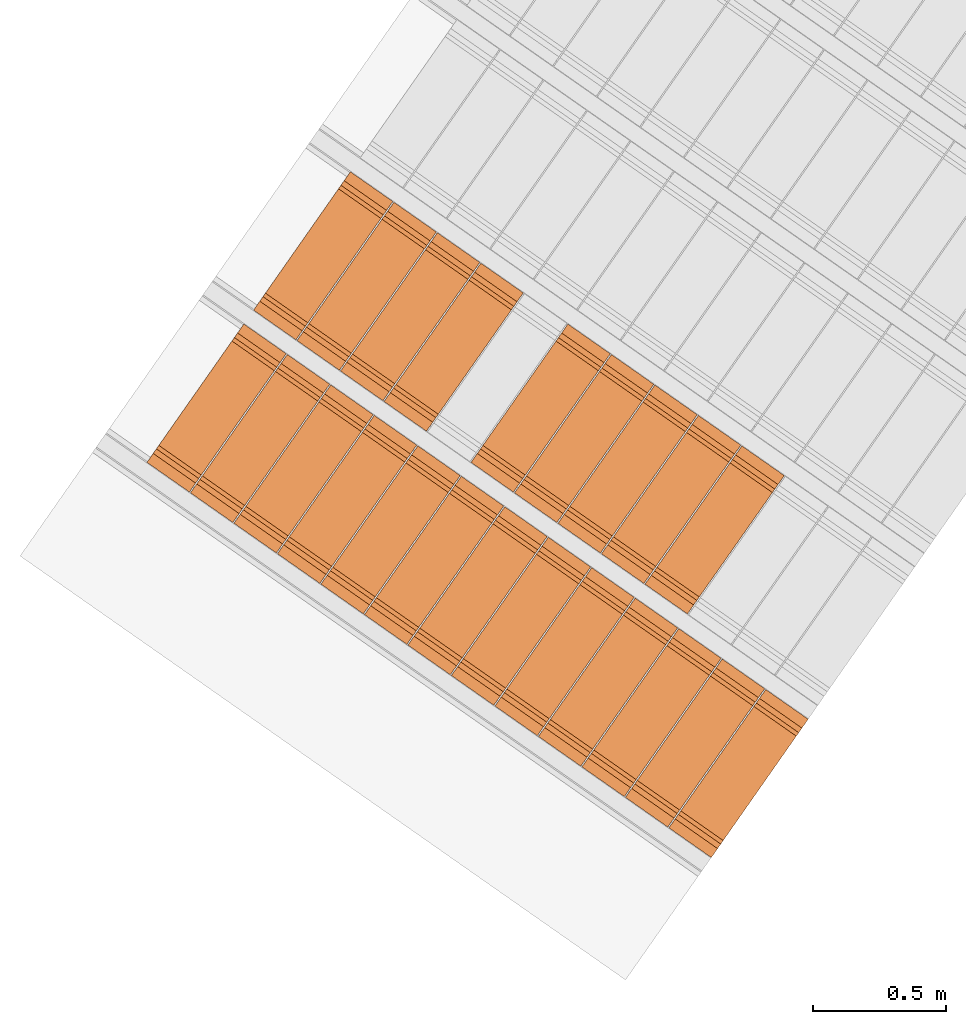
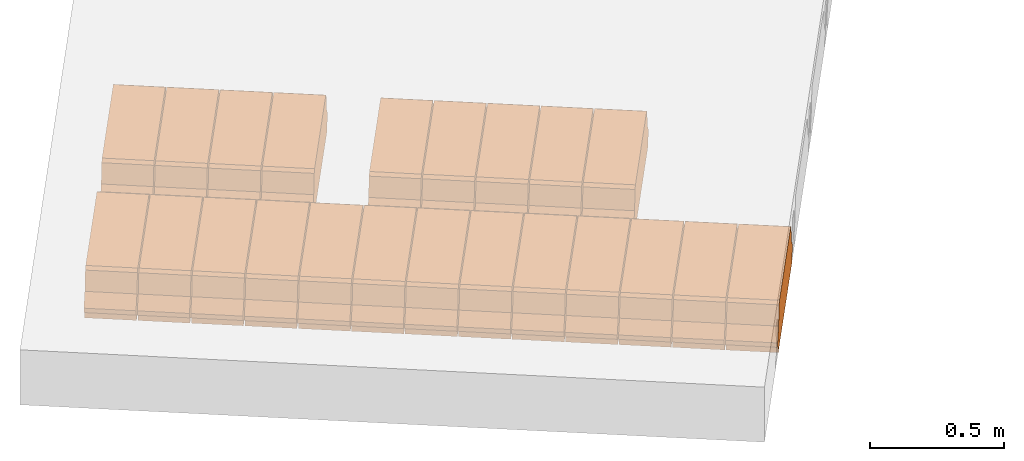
# One storey, part 2 of 8: 22 proxies.
"""IFC2X3 building model written with IfcOpenShell, lengths in metres."""

from ifc_helpers import new_model, entity, si_unit, converted_unit, derived_unit, direction, frame, origin, place, context, subcontext, project, spatial, polyline, outline, extrude, type_object, element, save


model = new_model("IFC2X3")

# Units and contexts
model_context = context("Model", 3, precision=1e-05, world=origin(), true_north=direction((6.123031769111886e-17, 1.0)))
body_context = subcontext(model_context, "Body", "Model", "MODEL_VIEW")
ifc_project = project(units=[si_unit("LENGTHUNIT", "METRE"), si_unit("AREAUNIT", "SQUARE_METRE"), si_unit("VOLUMEUNIT", "CUBIC_METRE"), converted_unit("PLANEANGLEUNIT", "DEGREE", entity("IfcPlaneAngleMeasure", 0.017453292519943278), si_unit("PLANEANGLEUNIT", "RADIAN"), dimensions=[0, 0, 0, 0, 0, 0, 0]), si_unit("MASSUNIT", "GRAM", prefix="KILO"), derived_unit("MASSDENSITYUNIT", [(si_unit("MASSUNIT", "GRAM", prefix="KILO"), 1), (si_unit("LENGTHUNIT", "METRE"), -3)]), derived_unit("IONCONCENTRATIONUNIT", [(si_unit("MASSUNIT", "GRAM", prefix="KILO"), 1), (si_unit("LENGTHUNIT", "METRE"), -3)]), derived_unit("MOMENTOFINERTIAUNIT", [(si_unit("LENGTHUNIT", "METRE"), 4)]), si_unit("TIMEUNIT", "SECOND"), si_unit("FREQUENCYUNIT", "HERTZ"), si_unit("THERMODYNAMICTEMPERATUREUNIT", "DEGREE_CELSIUS"), derived_unit("THERMALTRANSMITTANCEUNIT", [(si_unit("MASSUNIT", "GRAM", prefix="KILO"), 1), (si_unit("THERMODYNAMICTEMPERATUREUNIT", "KELVIN"), -1), (si_unit("TIMEUNIT", "SECOND"), -3)]), derived_unit("THERMALCONDUCTANCEUNIT", [(si_unit("MASSUNIT", "GRAM", prefix="KILO"), 1), (si_unit("THERMODYNAMICTEMPERATUREUNIT", "KELVIN"), -1), (si_unit("TIMEUNIT", "SECOND"), -3), (si_unit("LENGTHUNIT", "METRE"), 1)]), derived_unit("VOLUMETRICFLOWRATEUNIT", [(si_unit("LENGTHUNIT", "METRE", prefix="DECI"), 3), (si_unit("TIMEUNIT", "SECOND"), -1)]), derived_unit("MASSFLOWRATEUNIT", [(si_unit("MASSUNIT", "GRAM", prefix="KILO"), 1), (si_unit("TIMEUNIT", "SECOND"), -1)]), derived_unit("ROTATIONALFREQUENCYUNIT", [(si_unit("TIMEUNIT", "SECOND"), -1)]), si_unit("ELECTRICCURRENTUNIT", "AMPERE"), si_unit("ELECTRICVOLTAGEUNIT", "VOLT"), si_unit("POWERUNIT", "WATT"), si_unit("FORCEUNIT", "NEWTON", prefix="KILO"), si_unit("ILLUMINANCEUNIT", "LUX"), si_unit("LUMINOUSFLUXUNIT", "LUMEN"), si_unit("LUMINOUSINTENSITYUNIT", "CANDELA"), si_unit("ENERGYUNIT", "JOULE"), derived_unit("USERDEFINED", [(si_unit("MASSUNIT", "GRAM", prefix="KILO"), -1), (si_unit("LENGTHUNIT", "METRE"), -2), (si_unit("TIMEUNIT", "SECOND"), 3), (si_unit("LUMINOUSFLUXUNIT", "LUMEN"), 1)]), derived_unit("USERDEFINED", [(si_unit("MASSUNIT", "GRAM", prefix="KILO"), 1), (si_unit("TIMEUNIT", "SECOND"), -3), (si_unit("LENGTHUNIT", "METRE"), 3), (si_unit("ELECTRICCURRENTUNIT", "AMPERE"), -2)]), derived_unit("SOUNDPOWERUNIT", [(si_unit("MASSUNIT", "GRAM", prefix="KILO"), 1), (si_unit("TIMEUNIT", "SECOND"), -3), (si_unit("LENGTHUNIT", "METRE"), 2)]), derived_unit("SOUNDPRESSUREUNIT", [(si_unit("MASSUNIT", "GRAM", prefix="KILO"), 1), (si_unit("LENGTHUNIT", "METRE"), -1), (si_unit("TIMEUNIT", "SECOND"), -2)]), derived_unit("LINEARVELOCITYUNIT", [(si_unit("LENGTHUNIT", "METRE"), 1), (si_unit("TIMEUNIT", "SECOND"), -1)]), si_unit("PRESSUREUNIT", "PASCAL"), derived_unit("USERDEFINED", [(si_unit("MASSUNIT", "GRAM", prefix="KILO"), 1), (si_unit("LENGTHUNIT", "METRE"), -2), (si_unit("TIMEUNIT", "SECOND"), -2)]), derived_unit("LINEARFORCEUNIT", [(si_unit("MASSUNIT", "GRAM", prefix="KILO"), 1), (si_unit("TIMEUNIT", "SECOND"), -2)]), derived_unit("PLANARFORCEUNIT", [(si_unit("MASSUNIT", "GRAM", prefix="KILO"), 1), (si_unit("LENGTHUNIT", "METRE"), -1), (si_unit("TIMEUNIT", "SECOND"), -2)]), derived_unit("SPECIFICHEATCAPACITYUNIT", [(si_unit("THERMODYNAMICTEMPERATUREUNIT", "KELVIN"), -1), (si_unit("LENGTHUNIT", "METRE"), 2), (si_unit("TIMEUNIT", "SECOND"), -2)]), derived_unit("HEATFLUXDENSITYUNIT", [(si_unit("MASSUNIT", "GRAM", prefix="KILO"), 1), (si_unit("TIMEUNIT", "SECOND"), -3)]), derived_unit("HEATINGVALUEUNIT", [(si_unit("LENGTHUNIT", "METRE"), 2), (si_unit("TIMEUNIT", "SECOND"), -2)]), derived_unit("VAPORPERMEABILITYUNIT", [(si_unit("LENGTHUNIT", "METRE"), -1), (si_unit("TIMEUNIT", "SECOND"), 1)]), derived_unit("DYNAMICVISCOSITYUNIT", [(si_unit("MASSUNIT", "GRAM", prefix="KILO"), 1), (si_unit("TIMEUNIT", "SECOND"), -1), (si_unit("LENGTHUNIT", "METRE"), -1)]), derived_unit("THERMALEXPANSIONCOEFFICIENTUNIT", [(si_unit("THERMODYNAMICTEMPERATUREUNIT", "KELVIN"), -1)]), derived_unit("MODULUSOFELASTICITYUNIT", [(si_unit("MASSUNIT", "GRAM", prefix="KILO"), 1), (si_unit("LENGTHUNIT", "METRE"), -1), (si_unit("TIMEUNIT", "SECOND"), -2)]), derived_unit("ISOTHERMALMOISTURECAPACITYUNIT", [(si_unit("MASSUNIT", "GRAM", prefix="KILO"), -1), (si_unit("LENGTHUNIT", "METRE"), 3)]), derived_unit("MOISTUREDIFFUSIVITYUNIT", [(si_unit("TIMEUNIT", "SECOND"), -1), (si_unit("LENGTHUNIT", "METRE"), 2)]), derived_unit("MASSPERLENGTHUNIT", [(si_unit("MASSUNIT", "GRAM", prefix="KILO"), 1), (si_unit("LENGTHUNIT", "METRE"), -1)]), derived_unit("THERMALRESISTANCEUNIT", [(si_unit("MASSUNIT", "GRAM", prefix="KILO"), -1), (si_unit("TIMEUNIT", "SECOND"), 3), (si_unit("THERMODYNAMICTEMPERATUREUNIT", "KELVIN"), 1)]), derived_unit("ACCELERATIONUNIT", [(si_unit("LENGTHUNIT", "METRE"), 1), (si_unit("TIMEUNIT", "SECOND"), -2)]), derived_unit("ANGULARVELOCITYUNIT", [(si_unit("TIMEUNIT", "SECOND"), -1), (si_unit("PLANEANGLEUNIT", "RADIAN"), 1)]), derived_unit("LINEARSTIFFNESSUNIT", [(si_unit("MASSUNIT", "GRAM", prefix="KILO"), 1), (si_unit("TIMEUNIT", "SECOND"), -2)]), derived_unit("WARPINGCONSTANTUNIT", [(si_unit("LENGTHUNIT", "METRE"), 6)]), derived_unit("LINEARMOMENTUNIT", [(si_unit("MASSUNIT", "GRAM", prefix="KILO"), 1), (si_unit("LENGTHUNIT", "METRE"), 1), (si_unit("TIMEUNIT", "SECOND"), -2)]), derived_unit("TORQUEUNIT", [(si_unit("MASSUNIT", "GRAM", prefix="KILO"), 1), (si_unit("LENGTHUNIT", "METRE"), 2), (si_unit("TIMEUNIT", "SECOND"), -2)])], contexts=[model_context])

# Site, building, storey
site_placement = place(None, origin())
site = spatial("IfcSite", under=ifc_project, at=site_placement, Name="Default", CompositionType="ELEMENT")
building_placement = place(site_placement, origin())
building = spatial("IfcBuilding", under=site, at=building_placement, CompositionType="ELEMENT")
storey_placement = place(building_placement, frame((0.0, 0.0, 93.64)))
storey = spatial("IfcBuildingStorey", under=building, at=storey_placement, Name="Depósito_", CompositionType="ELEMENT", Elevation=93.64)

# Proxies
building_element_proxy_type_1 = type_object("IfcBuildingElementProxyType", Name="Bovedilla 1-1 (Paño 1)", PredefinedType="USERDEFINED")
proxy_1_placement = place(storey_placement, origin())
element("IfcBuildingElementProxy", 1, at=proxy_1_placement, inside=storey, type_object=building_element_proxy_type_1, Name="Bovedilla 1-1 (Paño 1)", ObjectType="FORM", context=body_context, shape_type="SweptSolid", body=[
    extrude(outline(polyline([(0.05816607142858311, -0.29499999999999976), (0.08997232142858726, -0.29499999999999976), (0.08997232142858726, 0.2950000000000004), (0.05816607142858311, 0.2950000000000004), (0.049972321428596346, 0.3180000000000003), (0.029972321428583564, 0.3180000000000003), (-0.018027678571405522, 0.2770000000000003), (-0.10002767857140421, 0.25600000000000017), (-0.11002767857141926, 0.24000000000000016), (-0.11002767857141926, -0.2399999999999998), (-0.10002767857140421, -0.2559999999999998), (-0.018027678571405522, -0.2769999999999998), (0.029972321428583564, -0.31799999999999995), (0.049972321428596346, -0.31799999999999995), (0.05816607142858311, -0.29499999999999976)])), frame((1.2637437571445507, 1.6070625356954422, 2.1381660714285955), z_axis=(0.8191520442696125, -0.5735764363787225, 0.0), x_axis=(0.0, 0.0, -1.0)), (0.0, 0.0, 1.0), 0.19500000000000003),
])
building_element_proxy_type_2 = type_object("IfcBuildingElementProxyType", Name="Bovedilla 1-2 (Paño 1)", PredefinedType="USERDEFINED")
proxy_2_placement = place(storey_placement, origin())
element("IfcBuildingElementProxy", 2, at=proxy_2_placement, inside=storey, type_object=building_element_proxy_type_2, Name="Bovedilla 1-2 (Paño 1)", ObjectType="FORM", context=body_context, shape_type="SweptSolid", body=[
    extrude(outline(polyline([(0.05816607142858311, -0.295), (0.08997232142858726, -0.295), (0.08997232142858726, 0.295), (0.05816607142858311, 0.295), (0.049972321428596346, 0.318), (0.029972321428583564, 0.318), (-0.018027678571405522, 0.27700000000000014), (-0.10002767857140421, 0.256), (-0.11002767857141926, 0.24), (-0.11002767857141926, -0.24000000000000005), (-0.10002767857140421, -0.25600000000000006), (-0.018027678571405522, -0.27700000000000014), (0.029972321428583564, -0.31799999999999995), (0.049972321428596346, -0.31799999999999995), (0.05816607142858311, -0.295)])), frame((1.0999133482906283, 1.7217778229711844, 2.1381660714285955), z_axis=(0.8191520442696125, -0.5735764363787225, 0.0), x_axis=(0.0, 0.0, -1.0)), (0.0, 0.0, 1.0), 0.19500000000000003),
])
building_element_proxy_type_3 = type_object("IfcBuildingElementProxyType", Name="Bovedilla 1-3 (Paño 1)", PredefinedType="USERDEFINED")
proxy_3_placement = place(storey_placement, origin())
element("IfcBuildingElementProxy", 3, at=proxy_3_placement, inside=storey, type_object=building_element_proxy_type_3, Name="Bovedilla 1-3 (Paño 1)", ObjectType="FORM", context=body_context, shape_type="SweptSolid", body=[
    extrude(outline(polyline([(0.05816607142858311, -0.29499999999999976), (0.08997232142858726, -0.29499999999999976), (0.08997232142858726, 0.2950000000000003), (0.05816607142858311, 0.2950000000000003), (0.049972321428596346, 0.3180000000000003), (0.029972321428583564, 0.3180000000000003), (-0.018027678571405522, 0.27700000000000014), (-0.10002767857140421, 0.25600000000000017), (-0.11002767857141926, 0.24000000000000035), (-0.11002767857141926, -0.2399999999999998), (-0.10002767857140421, -0.2559999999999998), (-0.018027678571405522, -0.2769999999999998), (0.029972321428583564, -0.31799999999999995), (0.049972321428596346, -0.31799999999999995), (0.05816607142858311, -0.29499999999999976)])), frame((0.9360829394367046, 1.8364931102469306, 2.1381660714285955), z_axis=(0.8191520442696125, -0.5735764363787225, 0.0), x_axis=(0.0, 0.0, -1.0)), (0.0, 0.0, 1.0), 0.19500000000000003),
])
building_element_proxy_type_4 = type_object("IfcBuildingElementProxyType", Name="Bovedilla 1-4 (Paño 1)", PredefinedType="USERDEFINED")
proxy_4_placement = place(storey_placement, origin())
element("IfcBuildingElementProxy", 4, at=proxy_4_placement, inside=storey, type_object=building_element_proxy_type_4, Name="Bovedilla 1-4 (Paño 1)", ObjectType="FORM", context=body_context, shape_type="SweptSolid", body=[
    extrude(outline(polyline([(0.05816607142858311, -0.29499999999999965), (0.08997232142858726, -0.29499999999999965), (0.08997232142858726, 0.2950000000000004), (0.05816607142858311, 0.2950000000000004), (0.049972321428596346, 0.31800000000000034), (0.029972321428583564, 0.31800000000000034), (-0.018027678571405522, 0.27700000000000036), (-0.10002767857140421, 0.2560000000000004), (-0.11002767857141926, 0.24000000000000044), (-0.11002767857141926, -0.23999999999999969), (-0.10002767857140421, -0.25599999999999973), (-0.018027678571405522, -0.27699999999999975), (0.029972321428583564, -0.31799999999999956), (0.049972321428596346, -0.31799999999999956), (0.05816607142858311, -0.29499999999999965)])), frame((0.7722525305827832, 1.9512083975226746, 2.1381660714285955), z_axis=(0.8191520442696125, -0.5735764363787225, 0.0), x_axis=(0.0, 0.0, -1.0)), (0.0, 0.0, 1.0), 0.19500000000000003),
])
building_element_proxy_type_5 = type_object("IfcBuildingElementProxyType", Name="Bovedilla 1-5 (Paño 1)", PredefinedType="USERDEFINED")
proxy_5_placement = place(storey_placement, origin())
element("IfcBuildingElementProxy", 5, at=proxy_5_placement, inside=storey, type_object=building_element_proxy_type_5, Name="Bovedilla 1-5 (Paño 1)", ObjectType="FORM", context=body_context, shape_type="SweptSolid", body=[
    extrude(outline(polyline([(0.05816607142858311, -0.29499999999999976), (0.08997232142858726, -0.29499999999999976), (0.08997232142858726, 0.2950000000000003), (0.05816607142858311, 0.2950000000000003), (0.049972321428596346, 0.31800000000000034), (0.029972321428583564, 0.31800000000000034), (-0.018027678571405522, 0.27700000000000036), (-0.10002767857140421, 0.2560000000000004), (-0.11002767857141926, 0.24000000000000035), (-0.11002767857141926, -0.2399999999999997), (-0.10002767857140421, -0.25599999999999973), (-0.018027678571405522, -0.27699999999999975), (0.029972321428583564, -0.31799999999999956), (0.049972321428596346, -0.31799999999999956), (0.05816607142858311, -0.29499999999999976)])), frame((0.6084221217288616, 2.065923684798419, 2.1381660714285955), z_axis=(0.8191520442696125, -0.5735764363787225, 0.0), x_axis=(0.0, 0.0, -1.0)), (0.0, 0.0, 1.0), 0.19500000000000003),
])
building_element_proxy_type_6 = type_object("IfcBuildingElementProxyType", Name="Bovedilla 1-6 (Paño 1)", PredefinedType="USERDEFINED")
proxy_6_placement = place(storey_placement, origin())
element("IfcBuildingElementProxy", 6, at=proxy_6_placement, inside=storey, type_object=building_element_proxy_type_6, Name="Bovedilla 1-6 (Paño 1)", ObjectType="FORM", context=body_context, shape_type="SweptSolid", body=[
    extrude(outline(polyline([(0.05816607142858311, -0.29499999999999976), (0.08997232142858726, -0.29499999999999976), (0.08997232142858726, 0.2950000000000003), (0.05816607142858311, 0.2950000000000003), (0.049972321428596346, 0.31800000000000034), (0.029972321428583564, 0.31800000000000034), (-0.018027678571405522, 0.27700000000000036), (-0.10002767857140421, 0.2560000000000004), (-0.11002767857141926, 0.24000000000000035), (-0.11002767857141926, -0.2399999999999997), (-0.10002767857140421, -0.2559999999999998), (-0.018027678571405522, -0.27699999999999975), (0.029972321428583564, -0.31799999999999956), (0.049972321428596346, -0.31799999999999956), (0.05816607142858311, -0.29499999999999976)])), frame((0.44459171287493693, 2.1806389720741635, 2.1381660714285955), z_axis=(0.8191520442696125, -0.5735764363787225, 0.0), x_axis=(0.0, 0.0, -1.0)), (0.0, 0.0, 1.0), 0.19500000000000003),
])
building_element_proxy_type_7 = type_object("IfcBuildingElementProxyType", Name="Bovedilla 1-7 (Paño 1)", PredefinedType="USERDEFINED")
proxy_7_placement = place(storey_placement, origin())
element("IfcBuildingElementProxy", 7, at=proxy_7_placement, inside=storey, type_object=building_element_proxy_type_7, Name="Bovedilla 1-7 (Paño 1)", ObjectType="FORM", context=body_context, shape_type="SweptSolid", body=[
    extrude(outline(polyline([(0.05816607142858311, -0.29499999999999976), (0.08997232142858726, -0.29499999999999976), (0.08997232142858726, 0.2950000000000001), (0.05816607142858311, 0.2950000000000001), (0.049972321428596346, 0.3180000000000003), (0.029972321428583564, 0.3180000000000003), (-0.018027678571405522, 0.27700000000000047), (-0.10002767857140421, 0.2560000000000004), (-0.11002767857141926, 0.2400000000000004), (-0.11002767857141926, -0.2399999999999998), (-0.10002767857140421, -0.2559999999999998), (-0.018027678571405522, -0.2769999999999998), (0.029972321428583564, -0.3179999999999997), (0.049972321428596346, -0.3179999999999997), (0.05816607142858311, -0.29499999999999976)])), frame((0.28076130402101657, 2.2953542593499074, 2.1381660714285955), z_axis=(0.8191520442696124, -0.5735764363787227, 0.0), x_axis=(0.0, 0.0, -1.0)), (0.0, 0.0, 1.0), 0.19500000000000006),
])
building_element_proxy_type_8 = type_object("IfcBuildingElementProxyType", Name="Bovedilla 1-8 (Paño 1)", PredefinedType="USERDEFINED")
proxy_8_placement = place(storey_placement, origin())
element("IfcBuildingElementProxy", 8, at=proxy_8_placement, inside=storey, type_object=building_element_proxy_type_8, Name="Bovedilla 1-8 (Paño 1)", ObjectType="FORM", context=body_context, shape_type="SweptSolid", body=[
    extrude(outline(polyline([(0.05816607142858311, -0.29499999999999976), (0.08997232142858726, -0.29499999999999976), (0.08997232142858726, 0.2950000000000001), (0.05816607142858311, 0.2950000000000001), (0.049972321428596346, 0.31800000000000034), (0.029972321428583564, 0.31800000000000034), (-0.018027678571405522, 0.2770000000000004), (-0.10002767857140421, 0.2560000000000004), (-0.11002767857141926, 0.2400000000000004), (-0.11002767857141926, -0.2399999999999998), (-0.10002767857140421, -0.2559999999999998), (-0.018027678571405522, -0.2769999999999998), (0.029972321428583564, -0.3179999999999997), (0.049972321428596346, -0.3179999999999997), (0.05816607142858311, -0.29499999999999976)])), frame((0.1169308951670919, 2.410069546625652, 2.1381660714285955), z_axis=(0.8191520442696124, -0.5735764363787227, 0.0), x_axis=(0.0, 0.0, -1.0)), (0.0, 0.0, 1.0), 0.19500000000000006),
])
building_element_proxy_type_9 = type_object("IfcBuildingElementProxyType", Name="Bovedilla 1-9 (Paño 1)", PredefinedType="USERDEFINED")
proxy_9_placement = place(storey_placement, origin())
element("IfcBuildingElementProxy", 9, at=proxy_9_placement, inside=storey, type_object=building_element_proxy_type_9, Name="Bovedilla 1-9 (Paño 1)", ObjectType="FORM", context=body_context, shape_type="SweptSolid", body=[
    extrude(outline(polyline([(0.05816607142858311, -0.29499999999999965), (0.08997232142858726, -0.29499999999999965), (0.08997232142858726, 0.2950000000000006), (0.05816607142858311, 0.2950000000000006), (0.049972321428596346, 0.3180000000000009), (0.029972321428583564, 0.3180000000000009), (-0.018027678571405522, 0.27700000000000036), (-0.10002767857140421, 0.25600000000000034), (-0.11002767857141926, 0.24000000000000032), (-0.11002767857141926, -0.23999999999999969), (-0.10002767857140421, -0.25599999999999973), (-0.018027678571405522, -0.2769999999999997), (0.029972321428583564, -0.31799999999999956), (0.049972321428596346, -0.31799999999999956), (0.05816607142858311, -0.29499999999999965)])), frame((-0.04689951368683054, 2.5247848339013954, 2.1381660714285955), z_axis=(0.8191520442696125, -0.5735764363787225, 0.0), x_axis=(0.0, 0.0, -1.0)), (0.0, 0.0, 1.0), 0.19500000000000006),
])
building_element_proxy_type_10 = type_object("IfcBuildingElementProxyType", Name="Bovedilla 1-10 (Paño 1)", PredefinedType="USERDEFINED")
proxy_10_placement = place(storey_placement, origin())
element("IfcBuildingElementProxy", 10, at=proxy_10_placement, inside=storey, type_object=building_element_proxy_type_10, Name="Bovedilla 1-10 (Paño 1)", ObjectType="FORM", context=body_context, shape_type="SweptSolid", body=[
    extrude(outline(polyline([(0.05816607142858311, -0.29499999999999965), (0.08997232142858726, -0.29499999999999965), (0.08997232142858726, 0.2950000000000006), (0.05816607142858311, 0.2950000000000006), (0.049972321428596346, 0.3180000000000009), (0.029972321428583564, 0.3180000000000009), (-0.018027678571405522, 0.27700000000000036), (-0.10002767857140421, 0.25600000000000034), (-0.11002767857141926, 0.24000000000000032), (-0.11002767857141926, -0.2399999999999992), (-0.10002767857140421, -0.25599999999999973), (-0.018027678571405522, -0.27699999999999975), (0.029972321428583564, -0.31799999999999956), (0.049972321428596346, -0.31799999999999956), (0.05816607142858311, -0.29499999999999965)])), frame((-0.21072992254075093, 2.63950012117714, 2.1381660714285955), z_axis=(0.8191520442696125, -0.5735764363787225, 0.0), x_axis=(0.0, 0.0, -1.0)), (0.0, 0.0, 1.0), 0.19500000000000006),
])
building_element_proxy_type_11 = type_object("IfcBuildingElementProxyType", Name="Bovedilla 1-11 (Paño 1)", PredefinedType="USERDEFINED")
proxy_11_placement = place(storey_placement, origin())
element("IfcBuildingElementProxy", 11, at=proxy_11_placement, inside=storey, type_object=building_element_proxy_type_11, Name="Bovedilla 1-11 (Paño 1)", ObjectType="FORM", context=body_context, shape_type="SweptSolid", body=[
    extrude(outline(polyline([(0.05816607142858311, -0.29499999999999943), (0.08997232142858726, -0.29499999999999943), (0.08997232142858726, 0.2950000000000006), (0.05816607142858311, 0.2950000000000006), (0.049972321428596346, 0.3180000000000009), (0.029972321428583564, 0.3180000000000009), (-0.018027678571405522, 0.27700000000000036), (-0.10002767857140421, 0.25600000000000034), (-0.11002767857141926, 0.24000000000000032), (-0.11002767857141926, -0.23999999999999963), (-0.10002767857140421, -0.2559999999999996), (-0.018027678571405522, -0.27699999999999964), (0.029972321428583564, -0.31799999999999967), (0.049972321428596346, -0.31799999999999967), (0.05816607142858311, -0.29499999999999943)])), frame((-0.37456033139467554, 2.7542154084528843, 2.1381660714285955), z_axis=(0.8191520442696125, -0.5735764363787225, 0.0), x_axis=(0.0, 0.0, -1.0)), (0.0, 0.0, 1.0), 0.19500000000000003),
])
building_element_proxy_type_12 = type_object("IfcBuildingElementProxyType", Name="Bovedilla 1-12 (Paño 1)", PredefinedType="USERDEFINED")
proxy_12_placement = place(storey_placement, origin())
element("IfcBuildingElementProxy", 12, at=proxy_12_placement, inside=storey, type_object=building_element_proxy_type_12, Name="Bovedilla 1-12 (Paño 1)", ObjectType="FORM", context=body_context, shape_type="SweptSolid", body=[
    extrude(outline(polyline([(0.05816607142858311, -0.2949999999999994), (0.08997232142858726, -0.2949999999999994), (0.08997232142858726, 0.2950000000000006), (0.05816607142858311, 0.2950000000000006), (0.049972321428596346, 0.3180000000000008), (0.029972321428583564, 0.3180000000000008), (-0.018027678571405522, 0.27700000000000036), (-0.10002767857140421, 0.25600000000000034), (-0.11002767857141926, 0.24000000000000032), (-0.11002767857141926, -0.23999999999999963), (-0.10002767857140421, -0.2559999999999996), (-0.018027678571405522, -0.27699999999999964), (0.029972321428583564, -0.3179999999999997), (0.049972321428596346, -0.3179999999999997), (0.05816607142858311, -0.2949999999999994)])), frame((-0.5383907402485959, 2.8689306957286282, 2.1381660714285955), z_axis=(0.8191520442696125, -0.5735764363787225, 0.0), x_axis=(0.0, 0.0, -1.0)), (0.0, 0.0, 1.0), 0.19500000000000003),
])
building_element_proxy_type_13 = type_object("IfcBuildingElementProxyType", Name="Bovedilla 1-13 (Paño 1)", PredefinedType="USERDEFINED")
proxy_13_placement = place(storey_placement, origin())
element("IfcBuildingElementProxy", 13, at=proxy_13_placement, inside=storey, type_object=building_element_proxy_type_13, Name="Bovedilla 1-13 (Paño 1)", ObjectType="FORM", context=body_context, shape_type="SweptSolid", body=[
    extrude(outline(polyline([(0.05816607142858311, -0.2950000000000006), (0.08997232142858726, -0.2950000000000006), (0.08997232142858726, 0.29499999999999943), (0.05816607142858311, 0.29499999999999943), (0.049972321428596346, 0.31799999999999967), (0.029972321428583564, 0.31799999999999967), (-0.018027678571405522, 0.27699999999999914), (-0.10002767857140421, 0.2559999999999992), (-0.11002767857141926, 0.2399999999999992), (-0.11002767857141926, -0.24000000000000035), (-0.10002767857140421, -0.2560000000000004), (-0.018027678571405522, -0.27700000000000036), (0.029972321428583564, -0.3180000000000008), (0.049972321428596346, -0.3180000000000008), (0.05816607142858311, -0.2950000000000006)])), frame((-0.7022211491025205, 2.983645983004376, 2.1381660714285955), z_axis=(0.8191520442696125, -0.5735764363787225, 0.0), x_axis=(0.0, 0.0, -1.0)), (0.0, 0.0, 1.0), 0.19500000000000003),
])
building_element_proxy_type_14 = type_object("IfcBuildingElementProxyType", Name="Bovedilla 2-4 (Paño 1)", PredefinedType="USERDEFINED")
proxy_14_placement = place(storey_placement, origin())
element("IfcBuildingElementProxy", 14, at=proxy_14_placement, inside=storey, type_object=building_element_proxy_type_14, Name="Bovedilla 2-4 (Paño 1)", ObjectType="FORM", context=body_context, shape_type="SweptSolid", body=[
    extrude(outline(polyline([(0.05816607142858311, -0.2950000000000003), (0.08997232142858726, -0.2950000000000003), (0.08997232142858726, 0.2949999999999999), (0.05816607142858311, 0.2949999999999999), (0.049972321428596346, 0.3179999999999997), (0.029972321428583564, 0.3179999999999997), (-0.018027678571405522, 0.27699999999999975), (-0.10002767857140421, 0.2559999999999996), (-0.11002767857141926, 0.23999999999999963), (-0.11002767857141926, -0.24000000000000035), (-0.10002767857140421, -0.2560000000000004), (-0.018027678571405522, -0.27700000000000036), (0.029972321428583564, -0.31800000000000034), (0.049972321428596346, -0.31800000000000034), (0.05816607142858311, -0.2950000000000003)])), frame((1.1737560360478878, 2.5246148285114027, 2.1381660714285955), z_axis=(0.8191520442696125, -0.5735764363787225, 0.0), x_axis=(0.0, 0.0, -1.0)), (0.0, 0.0, 1.0), 0.19500000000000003),
])
building_element_proxy_type_15 = type_object("IfcBuildingElementProxyType", Name="Bovedilla 2-5 (Paño 1)", PredefinedType="USERDEFINED")
proxy_15_placement = place(storey_placement, origin())
element("IfcBuildingElementProxy", 15, at=proxy_15_placement, inside=storey, type_object=building_element_proxy_type_15, Name="Bovedilla 2-5 (Paño 1)", ObjectType="FORM", context=body_context, shape_type="SweptSolid", body=[
    extrude(outline(polyline([(0.05816607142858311, -0.2950000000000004), (0.08997232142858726, -0.2950000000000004), (0.08997232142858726, 0.2949999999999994), (0.05816607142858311, 0.2949999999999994), (0.049972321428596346, 0.3179999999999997), (0.029972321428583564, 0.3179999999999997), (-0.018027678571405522, 0.27699999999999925), (-0.10002767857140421, 0.2559999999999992), (-0.11002767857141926, 0.23999999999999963), (-0.11002767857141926, -0.24000000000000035), (-0.10002767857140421, -0.2560000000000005), (-0.018027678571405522, -0.27700000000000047), (0.029972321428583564, -0.31800000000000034), (0.049972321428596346, -0.31800000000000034), (0.05816607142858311, -0.2950000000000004)])), frame((1.0099256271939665, 2.6393301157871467, 2.1381660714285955), z_axis=(0.8191520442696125, -0.5735764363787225, 0.0), x_axis=(0.0, 0.0, -1.0)), (0.0, 0.0, 1.0), 0.19500000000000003),
])
building_element_proxy_type_16 = type_object("IfcBuildingElementProxyType", Name="Bovedilla 2-6 (Paño 1)", PredefinedType="USERDEFINED")
proxy_16_placement = place(storey_placement, origin())
element("IfcBuildingElementProxy", 16, at=proxy_16_placement, inside=storey, type_object=building_element_proxy_type_16, Name="Bovedilla 2-6 (Paño 1)", ObjectType="FORM", context=body_context, shape_type="SweptSolid", body=[
    extrude(outline(polyline([(0.05816607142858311, -0.2950000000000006), (0.08997232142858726, -0.2950000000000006), (0.08997232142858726, 0.2949999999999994), (0.05816607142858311, 0.2949999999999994), (0.049972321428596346, 0.31799999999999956), (0.029972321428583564, 0.31799999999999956), (-0.018027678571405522, 0.27699999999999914), (-0.10002767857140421, 0.2559999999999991), (-0.11002767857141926, 0.2399999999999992), (-0.11002767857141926, -0.24000000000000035), (-0.10002767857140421, -0.2560000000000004), (-0.018027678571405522, -0.27700000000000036), (0.029972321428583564, -0.31800000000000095), (0.049972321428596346, -0.31800000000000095), (0.05816607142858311, -0.2950000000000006)])), frame((0.8460952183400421, 2.754045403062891, 2.1381660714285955), z_axis=(0.8191520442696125, -0.5735764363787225, 0.0), x_axis=(0.0, 0.0, -1.0)), (0.0, 0.0, 1.0), 0.19500000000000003),
])
building_element_proxy_type_17 = type_object("IfcBuildingElementProxyType", Name="Bovedilla 2-7 (Paño 1)", PredefinedType="USERDEFINED")
proxy_17_placement = place(storey_placement, origin())
element("IfcBuildingElementProxy", 17, at=proxy_17_placement, inside=storey, type_object=building_element_proxy_type_17, Name="Bovedilla 2-7 (Paño 1)", ObjectType="FORM", context=body_context, shape_type="SweptSolid", body=[
    extrude(outline(polyline([(0.05816607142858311, -0.2950000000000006), (0.08997232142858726, -0.2950000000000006), (0.08997232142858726, 0.2949999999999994), (0.05816607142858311, 0.2949999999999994), (0.049972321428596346, 0.3179999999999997), (0.029972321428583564, 0.3179999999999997), (-0.018027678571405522, 0.27699999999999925), (-0.10002767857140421, 0.2559999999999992), (-0.11002767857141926, 0.23999999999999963), (-0.11002767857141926, -0.24000000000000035), (-0.10002767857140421, -0.2560000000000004), (-0.018027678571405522, -0.27700000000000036), (0.029972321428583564, -0.3180000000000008), (0.049972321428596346, -0.3180000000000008), (0.05816607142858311, -0.2950000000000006)])), frame((0.6822648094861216, 2.8687606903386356, 2.1381660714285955), z_axis=(0.8191520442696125, -0.5735764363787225, 0.0), x_axis=(0.0, 0.0, -1.0)), (0.0, 0.0, 1.0), 0.19500000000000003),
])
building_element_proxy_type_18 = type_object("IfcBuildingElementProxyType", Name="Bovedilla 2-8 (Paño 1)", PredefinedType="USERDEFINED")
proxy_18_placement = place(storey_placement, origin())
element("IfcBuildingElementProxy", 18, at=proxy_18_placement, inside=storey, type_object=building_element_proxy_type_18, Name="Bovedilla 2-8 (Paño 1)", ObjectType="FORM", context=body_context, shape_type="SweptSolid", body=[
    extrude(outline(polyline([(0.05816607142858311, -0.2950000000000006), (0.08997232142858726, -0.2950000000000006), (0.08997232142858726, 0.2949999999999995), (0.05816607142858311, 0.2949999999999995), (0.049972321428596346, 0.3179999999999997), (0.029972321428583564, 0.3179999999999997), (-0.018027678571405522, 0.27699999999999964), (-0.10002767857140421, 0.2559999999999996), (-0.11002767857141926, 0.23999999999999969), (-0.11002767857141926, -0.24000000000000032), (-0.10002767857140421, -0.25600000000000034), (-0.018027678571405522, -0.27700000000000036), (0.029972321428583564, -0.3180000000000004), (0.049972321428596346, -0.3180000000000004), (0.05816607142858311, -0.2950000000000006)])), frame((0.5184344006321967, 2.9834759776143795, 2.1381660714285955), z_axis=(0.8191520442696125, -0.5735764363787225, 0.0), x_axis=(0.0, 0.0, -1.0)), (0.0, 0.0, 1.0), 0.19500000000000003),
])
building_element_proxy_type_19 = type_object("IfcBuildingElementProxyType", Name="Bovedilla 2-10 (Paño 1)", PredefinedType="USERDEFINED")
proxy_19_placement = place(storey_placement, origin())
element("IfcBuildingElementProxy", 19, at=proxy_19_placement, inside=storey, type_object=building_element_proxy_type_19, Name="Bovedilla 2-10 (Paño 1)", ObjectType="FORM", context=body_context, shape_type="SweptSolid", body=[
    extrude(outline(polyline([(0.05816607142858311, -0.2950000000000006), (0.08997232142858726, -0.2950000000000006), (0.08997232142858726, 0.2949999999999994), (0.05816607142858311, 0.2949999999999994), (0.049972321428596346, 0.31799999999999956), (0.029972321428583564, 0.31799999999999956), (-0.018027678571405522, 0.27699999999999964), (-0.10002767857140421, 0.2559999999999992), (-0.11002767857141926, 0.23999999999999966), (-0.11002767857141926, -0.24000000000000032), (-0.10002767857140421, -0.25600000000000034), (-0.018027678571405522, -0.27700000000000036), (0.029972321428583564, -0.3180000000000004), (0.049972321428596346, -0.3180000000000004), (0.05816607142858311, -0.2950000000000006)])), frame((0.1907735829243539, 3.212906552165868, 2.1381660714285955), z_axis=(0.8191520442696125, -0.5735764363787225, 0.0), x_axis=(0.0, 0.0, -1.0)), (0.0, 0.0, 1.0), 0.19500000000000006),
])
building_element_proxy_type_20 = type_object("IfcBuildingElementProxyType", Name="Bovedilla 2-11 (Paño 1)", PredefinedType="USERDEFINED")
proxy_20_placement = place(storey_placement, origin())
element("IfcBuildingElementProxy", 20, at=proxy_20_placement, inside=storey, type_object=building_element_proxy_type_20, Name="Bovedilla 2-11 (Paño 1)", ObjectType="FORM", context=body_context, shape_type="SweptSolid", body=[
    extrude(outline(polyline([(0.05816607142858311, -0.2949999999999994), (0.08997232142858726, -0.2949999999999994), (0.08997232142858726, 0.2950000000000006), (0.05816607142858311, 0.2950000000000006), (0.049972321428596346, 0.3180000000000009), (0.029972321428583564, 0.3180000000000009), (-0.018027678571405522, 0.27700000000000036), (-0.10002767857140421, 0.25600000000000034), (-0.11002767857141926, 0.24000000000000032), (-0.11002767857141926, -0.2399999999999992), (-0.10002767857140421, -0.2559999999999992), (-0.018027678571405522, -0.27699999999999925), (0.029972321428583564, -0.31799999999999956), (0.049972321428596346, -0.31799999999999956), (0.05816607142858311, -0.2949999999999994)])), frame((0.026943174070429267, 3.3276218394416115, 2.1381660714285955), z_axis=(0.8191520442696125, -0.5735764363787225, 0.0), x_axis=(0.0, 0.0, -1.0)), (0.0, 0.0, 1.0), 0.19500000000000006),
])
building_element_proxy_type_21 = type_object("IfcBuildingElementProxyType", Name="Bovedilla 2-12 (Paño 1)", PredefinedType="USERDEFINED")
proxy_21_placement = place(storey_placement, origin())
element("IfcBuildingElementProxy", 21, at=proxy_21_placement, inside=storey, type_object=building_element_proxy_type_21, Name="Bovedilla 2-12 (Paño 1)", ObjectType="FORM", context=body_context, shape_type="SweptSolid", body=[
    extrude(outline(polyline([(0.05816607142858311, -0.2950000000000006), (0.08997232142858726, -0.2950000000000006), (0.08997232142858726, 0.2949999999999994), (0.05816607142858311, 0.2949999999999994), (0.049972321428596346, 0.31799999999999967), (0.029972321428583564, 0.31799999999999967), (-0.018027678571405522, 0.2769999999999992), (-0.10002767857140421, 0.2559999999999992), (-0.11002767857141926, 0.2399999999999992), (-0.11002767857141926, -0.24000000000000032), (-0.10002767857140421, -0.25600000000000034), (-0.018027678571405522, -0.27700000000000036), (0.029972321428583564, -0.3180000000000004), (0.049972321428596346, -0.3180000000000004), (0.05816607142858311, -0.2950000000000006)])), frame((-0.13688723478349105, 3.442337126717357, 2.1381660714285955), z_axis=(0.8191520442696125, -0.5735764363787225, 0.0), x_axis=(0.0, 0.0, -1.0)), (0.0, 0.0, 1.0), 0.19500000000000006),
])
building_element_proxy_type_22 = type_object("IfcBuildingElementProxyType", Name="Bovedilla 2-13 (Paño 1)", PredefinedType="USERDEFINED")
proxy_22_placement = place(storey_placement, origin())
element("IfcBuildingElementProxy", 22, at=proxy_22_placement, inside=storey, type_object=building_element_proxy_type_22, Name="Bovedilla 2-13 (Paño 1)", ObjectType="FORM", context=body_context, shape_type="SweptSolid", body=[
    extrude(outline(polyline([(0.05816607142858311, -0.29499999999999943), (0.08997232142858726, -0.29499999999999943), (0.08997232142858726, 0.2950000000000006), (0.05816607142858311, 0.2950000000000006), (0.049972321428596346, 0.3180000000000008), (0.029972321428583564, 0.3180000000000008), (-0.018027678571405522, 0.27700000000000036), (-0.10002767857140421, 0.25600000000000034), (-0.11002767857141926, 0.24000000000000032), (-0.11002767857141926, -0.23999999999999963), (-0.10002767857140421, -0.2559999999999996), (-0.018027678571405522, -0.27699999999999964), (0.029972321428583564, -0.31799999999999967), (0.049972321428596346, -0.31799999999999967), (0.05816607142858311, -0.29499999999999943)])), frame((-0.3007176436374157, 3.557052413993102, 2.1381660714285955), z_axis=(0.8191520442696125, -0.5735764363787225, 0.0), x_axis=(0.0, 0.0, -1.0)), (0.0, 0.0, 1.0), 0.19500000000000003),
])

save(model, "model.ifc")
